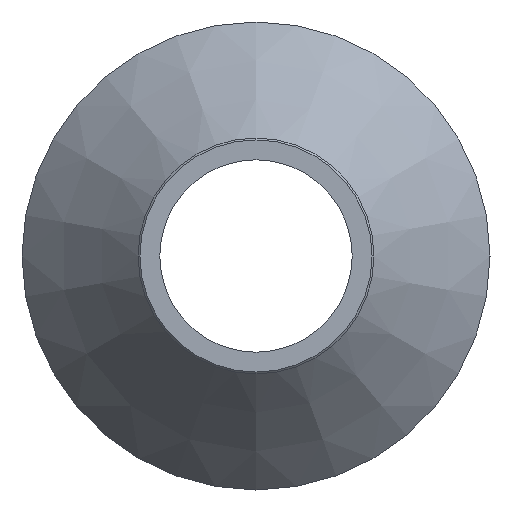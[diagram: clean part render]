
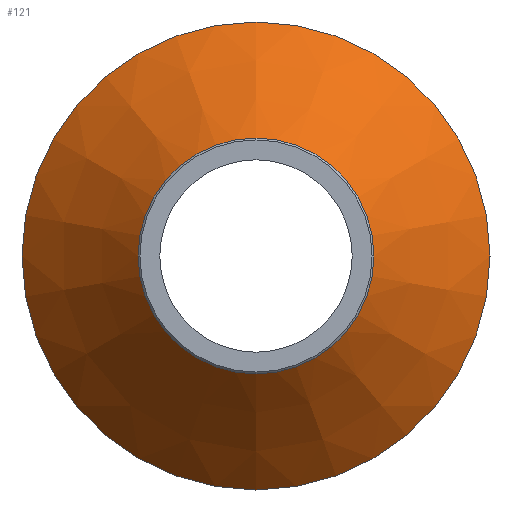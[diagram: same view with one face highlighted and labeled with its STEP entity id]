
A CAD part, left-side view. The second image highlights one B-rep face of the part: STEP entity #121.
In plain terms, the highlighted conical face has half-angle 41.532 degrees and reference radius 62.5 mm.
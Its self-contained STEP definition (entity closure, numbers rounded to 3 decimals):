
#22=CONICAL_SURFACE('',#146,62.5,0.725);
#28=ORIENTED_EDGE('',*,*,#48,.F.);
#29=ORIENTED_EDGE('',*,*,#47,.T.);
#47=EDGE_CURVE('',#57,#57,#67,.T.);
#48=EDGE_CURVE('',#58,#58,#68,.T.);
#57=VERTEX_POINT('',#210);
#58=VERTEX_POINT('',#213);
#67=CIRCLE('',#145,62.5);
#68=CIRCLE('',#147,31.5);
#78=EDGE_LOOP('',(#28));
#79=EDGE_LOOP('',(#29));
#98=FACE_BOUND('',#78,.T.);
#99=FACE_BOUND('',#79,.T.);
#121=ADVANCED_FACE('',(#98,#99),#22,.T.);
#145=AXIS2_PLACEMENT_3D('',#209,#169,#170);
#146=AXIS2_PLACEMENT_3D('',#211,#171,#172);
#147=AXIS2_PLACEMENT_3D('',#212,#173,#174);
#169=DIRECTION('',(-1.,0.,0.));
#170=DIRECTION('',(0.,0.,1.));
#171=DIRECTION('',(1.,0.,0.));
#172=DIRECTION('',(0.,0.,-1.));
#173=DIRECTION('',(-1.,0.,0.));
#174=DIRECTION('',(0.,0.,1.));
#209=CARTESIAN_POINT('',(17.5,0.,0.));
#210=CARTESIAN_POINT('',(17.5,0.,62.5));
#211=CARTESIAN_POINT('',(17.5,0.,0.));
#212=CARTESIAN_POINT('',(-17.5,0.,0.));
#213=CARTESIAN_POINT('',(-17.5,0.,31.5));
